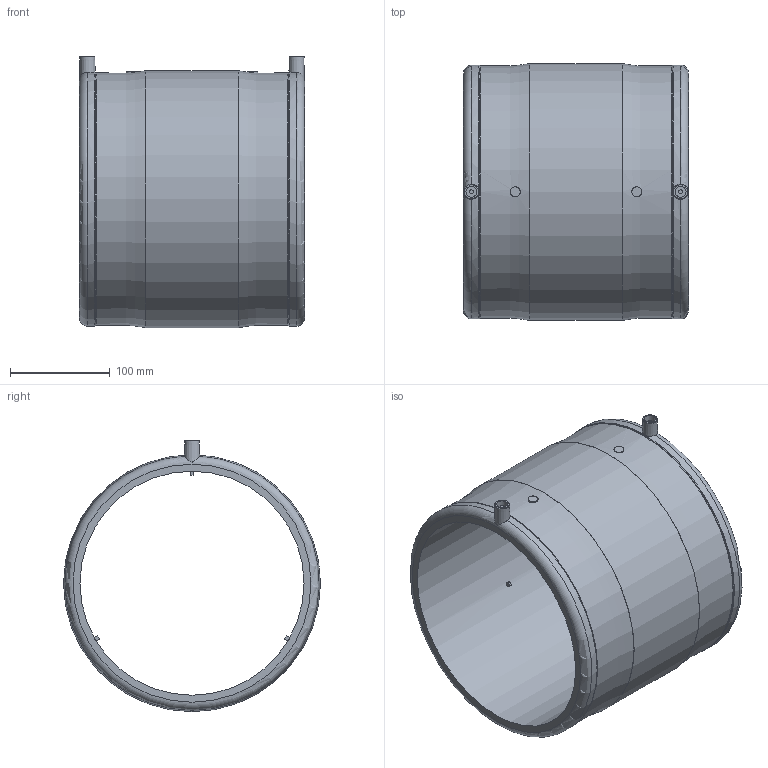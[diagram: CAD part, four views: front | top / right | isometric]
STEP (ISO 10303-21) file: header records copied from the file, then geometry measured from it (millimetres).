
FILE_DESCRIPTION(/* description */ ('Unknown'),/* implementation_level */ '2;1');
FILE_NAME(/* name */ 'MP225A',/* time_stamp */ '2021-05-06T08:35:42+02:00',/* author */ ('Unknown'),/* organization */ ('Unknown'),/* preprocessor_version */ 'ST-DEVELOPER v16.7',/* originating_system */ 'Solid Edge',/* authorisation */ 'Unknown');
FILE_SCHEMA (('AUTOMOTIVE_DESIGN {1 0 10303 214 3 1 1}'));
Length unit declared in the file: millimetre
Products named in the file (1): MP225A
Bounding box: 226 x 258 x 272.5 mm (x, y, z)
Volume: 2594842 mm3; surface area: 362087.8 mm2
Topology: 1 solids, 1 shells, 55 faces, 135 edges, 88 vertices
Faces by surface type: plane 25, cylinder 16, torus 12, cone 2
Full cylindrical faces by diameter (mm): 4 x2, 10 x2, 11 x2, 225 x1, 258 x1
Entity records: 1458 total; most frequent: CARTESIAN_POINT 306, DIRECTION 244, ORIENTED_EDGE 188, AXIS2_PLACEMENT_3D 104, EDGE_CURVE 94, EDGE_LOOP 88, FACE_BOUND 88, VERTEX_POINT 72
